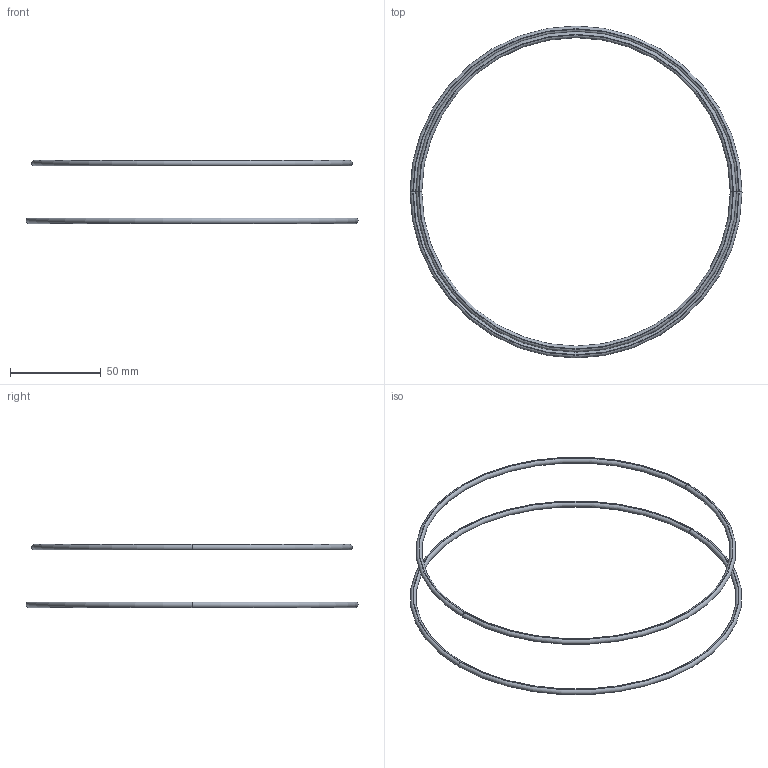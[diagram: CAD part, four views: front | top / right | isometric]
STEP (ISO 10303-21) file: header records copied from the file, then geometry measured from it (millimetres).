
FILE_DESCRIPTION((''),'2;1');
FILE_NAME('RMC-8015','2007-09-26T',('glafferty'),('Pleasant Precision, Inc. (419)675-0556'),'PRO/ENGINEER BY PARAMETRIC TECHNOLOGY CORPORATION, 2006080','PRO/ENGINEER BY PARAMETRIC TECHNOLOGY CORPORATION, 2006080','');
FILE_SCHEMA(('CONFIG_CONTROL_DESIGN'));
Length unit declared in the file: inch
Products named in the file (1): RMC-8015
Bounding box: 182.63 x 182.63 x 34.8 mm (x, y, z)
Volume: 8932.6 mm3; surface area: 11160.3 mm2
Topology: 2 solids, 2 shells, 12 faces, 24 edges, 16 vertices
Faces by surface type: torus 8, plane 4
Entity records: 378 total; most frequent: DIRECTION 72, CARTESIAN_POINT 52, ORIENTED_EDGE 48, AXIS2_PLACEMENT_3D 36, CIRCLE 24, EDGE_CURVE 24, VERTEX_POINT 16, EDGE_LOOP 16
